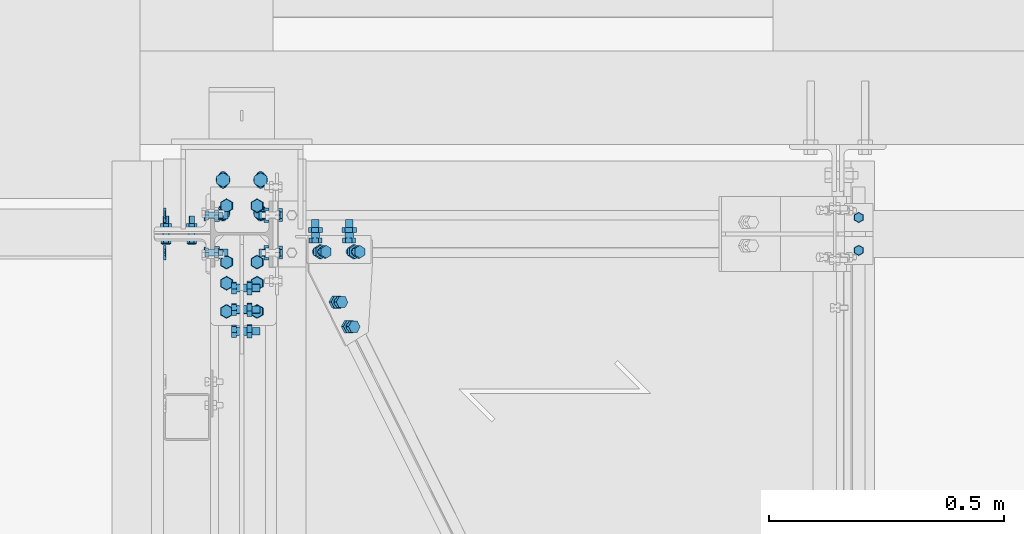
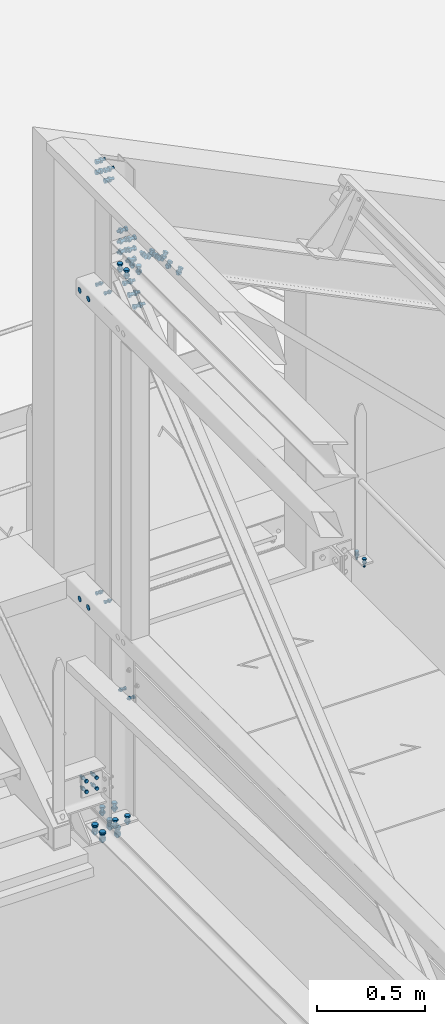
# One storey, part 195 of 362: 16 mechanical fasteners.
"""IFC2X3 building model written with IfcOpenShell, lengths in millimetres."""

from ifc_helpers import new_model, si_unit, frame, frame_2d, origin_with_axes, origin_2d_with_axis, place, context, subcontext, project, spatial, polyline, circle_curve, parameter, trimmed, segment, composite_curve, circle, outline, extrude, source, transform, mapped, material, type_object, element, save


model = new_model("IFC2X3")

# Units and contexts
model_context = context("Model", 3, precision=1e-05, world=origin_with_axes())
body_context = subcontext(model_context, "Body", "Model", "MODEL_VIEW")
ifc_project = project(units=[si_unit("LENGTHUNIT", "METRE", prefix="MILLI"), si_unit("AREAUNIT", "SQUARE_METRE"), si_unit("VOLUMEUNIT", "CUBIC_METRE"), si_unit("MASSUNIT", "GRAM", prefix="KILO"), si_unit("TIMEUNIT", "SECOND"), si_unit("PLANEANGLEUNIT", "RADIAN"), si_unit("SOLIDANGLEUNIT", "STERADIAN"), si_unit("THERMODYNAMICTEMPERATUREUNIT", "DEGREE_CELSIUS"), si_unit("LUMINOUSINTENSITYUNIT", "LUMEN")], contexts=[model_context])

# Site, building, storey
site_placement = place(None, origin_with_axes())
site = spatial("IfcSite", under=ifc_project, at=site_placement, Name="Undefined", CompositionType="ELEMENT")
building_placement = place(site_placement, origin_with_axes())
building = spatial("IfcBuilding", under=site, at=building_placement, Name="Undefined", CompositionType="ELEMENT")
storey_placement = place(building_placement, origin_with_axes())
storey = spatial("IfcBuildingStorey", under=building, at=storey_placement, Name="Undefined", CompositionType="ELEMENT", Elevation=0.0)

# Mechanical fasteners
ifc_material_1 = material(Name="6.8")
mechanical_fastener_type = type_object("IfcMechanicalFastenerType", Name="Bolt assembly")
shared_shape_1 = source(origin_with_axes(), body_context, "Body", "SweptSolid", [
    extrude(circle(Radius=15.0, at=origin_2d_with_axis()), frame((0.0, 0.0, 0.0), z_axis=(0.0, 1.0, 0.0), x_axis=(1.0, 0.0, 0.0)), (0.0, 0.0, 1.0), 4.1),
])
mechanical_fastener_1_placement = place(storey_placement, frame((34113.4999999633, 15200.0, 10245.0), z_axis=(0.0, 1.0, 0.0), x_axis=(0.0, 0.0, 1.0)))
element("IfcMechanicalFastener", 1, at=mechanical_fastener_1_placement, inside=storey, type_object=mechanical_fastener_type, material=ifc_material_1, Name="Bolt assembly", NominalDiameter=30.0, NominalLength=4.0, context=body_context, shape_type="MappedRepresentation", body=[
    mapped(shared_shape_1, transform((0.0, 0.0, 40.0))),
    mapped(shared_shape_1, transform((0.0, 0.0, -40.0))),
])
ifc_material_2 = material(Name="#_SB-8.8-ZINGUE")
shared_shape_2 = source(origin_with_axes(), body_context, "Body", "SweptSolid", [
    extrude(circle(Radius=9.0, at=origin_2d_with_axis()), frame((0.0, 0.1, 0.0), z_axis=(0.0, 1.0, 0.0), x_axis=(1.0, 0.0, 0.0)), (0.0, 0.0, 1.0), 6.0),
    extrude(circle(Radius=9.0, at=origin_2d_with_axis()), frame((0.0, 5.90002706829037, 0.0), z_axis=(0.0, 1.0, 0.0), x_axis=(1.0, 0.0, 0.0)), (0.0, 0.0, 1.0), 6.1),
    extrude(outline(polyline([(13.85640646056, 0.0), (6.92820323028, 12.0000000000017), (-6.92820323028, 12.0000000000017), (-13.85640646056, 0.0), (-6.92820323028, -12.0000000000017), (6.92820323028, -12.0000000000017), (13.85640646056, 0.0)])), frame((0.0, -10.5600019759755, 0.0), z_axis=(0.0, 1.0, 0.0), x_axis=(1.0, 0.0, 0.0)), (0.0, 0.0, 1.0), 10.56),
    extrude(circle(Radius=8.0, at=origin_2d_with_axis()), frame((0.0, 0.0, 0.0), z_axis=(0.0, 1.0, 0.0), x_axis=(1.0, 0.0, 0.0)), (0.0, 0.0, 1.0), 40.0),
    extrude(outline(polyline([(15.3344231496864, 0.0), (7.6672115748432, 13.2800000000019), (-7.6672115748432, 13.2800000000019), (-15.3344231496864, 0.0), (-7.6672115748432, -13.2800000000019), (7.6672115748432, -13.2800000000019), (15.3344231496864, 0.0)])), frame((0.0, 12.0000270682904, 0.0), z_axis=(0.0, 1.0, 0.0), x_axis=(1.0, 0.0, 0.0)), (0.0, 0.0, 1.0), 10.56),
])
mechanical_fastener_2_placement = place(storey_placement, frame((34490.8928985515, 15162.0004298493, 10375.2944476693), z_axis=(-0.897398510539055, -1.29999898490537e-08, 0.441220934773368), x_axis=(0.0, 1.0, 0.0)))
element("IfcMechanicalFastener", 2, at=mechanical_fastener_2_placement, inside=storey, type_object=mechanical_fastener_type, material=ifc_material_2, Name="Bolt assembly", NominalDiameter=16.0, NominalLength=40.0, context=body_context, shape_type="MappedRepresentation", body=[
    mapped(shared_shape_2, transform((0.0, 0.0, 40.0))),
    mapped(shared_shape_2, transform((0.0, 0.0, -40.0))),
])
ifc_material_3 = material(Name="8.8-SB-ZINGUE")
shared_shape_3 = source(origin_with_axes(), body_context, "Body", "SweptSolid", [
    extrude(circle(Radius=9.0, at=origin_2d_with_axis()), frame((0.0, -10.9000000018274, 0.0), z_axis=(0.0, 1.0, 0.0), x_axis=(1.0, 0.0, 0.0)), (0.0, 0.0, 1.0), 6.0),
    extrude(circle(Radius=9.0, at=origin_2d_with_axis()), frame((0.0, 4.9000000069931, 0.0), z_axis=(0.0, 1.0, 0.0), x_axis=(1.0, 0.0, 0.0)), (0.0, 0.0, 1.0), 6.1),
    extrude(circle(Radius=9.0, at=origin_2d_with_axis()), frame((0.0, -3.99999923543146, 0.0), z_axis=(0.0, 1.0, 0.0), x_axis=(1.0, 0.0, 0.0)), (0.0, 0.0, 1.0), 8.0),
    extrude(outline(polyline([(13.85640646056, 0.0), (6.92820323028, 12.0000000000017), (-6.92820323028, 12.0000000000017), (-13.85640646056, 0.0), (-6.92820323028, -12.0000000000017), (6.92820323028, -12.0000000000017), (13.85640646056, 0.0)])), frame((0.0, -21.5600000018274, 0.0), z_axis=(0.0, 1.0, 0.0), x_axis=(1.0, 0.0, 0.0)), (0.0, 0.0, 1.0), 10.56),
    extrude(circle(Radius=8.0, at=origin_2d_with_axis()), frame((0.0, -11.0000000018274, 0.0), z_axis=(0.0, 1.0, 0.0), x_axis=(1.0, 0.0, 0.0)), (0.0, 0.0, 1.0), 50.0),
    extrude(outline(polyline([(15.3344231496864, 0.0), (7.6672115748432, 13.2800000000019), (-7.6672115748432, 13.2800000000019), (-15.3344231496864, 0.0), (-7.6672115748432, -13.2800000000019), (7.6672115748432, -13.2800000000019), (15.3344231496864, 0.0)])), frame((0.0, 11.0000000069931, 0.0), z_axis=(0.0, 1.0, 0.0), x_axis=(1.0, 0.0, 0.0)), (0.0, 0.0, 1.0), 10.56),
])
mechanical_fastener_3_placement = place(storey_placement, frame((34280.0, 15084.8612400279, 10326.8591349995), z_axis=(0.0, -0.640939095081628, 0.767591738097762), x_axis=(0.0, -0.767591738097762, -0.640939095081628)))
element("IfcMechanicalFastener", 3, at=mechanical_fastener_3_placement, inside=storey, type_object=mechanical_fastener_type, material=ifc_material_3, Name="Bolt assembly", NominalDiameter=16.0, NominalLength=50.0, context=body_context, shape_type="MappedRepresentation", body=[
    mapped(shared_shape_3, transform((0.0, 0.0, 0.0))),
    mapped(shared_shape_3, transform((60.0, 0.0, 0.0))),
    mapped(shared_shape_3, transform((120.0, 0.0, 0.0))),
])
shared_shape_4 = source(origin_with_axes(), body_context, "Body", "SweptSolid", [
    extrude(circle(Radius=7.0, at=origin_2d_with_axis()), frame((0.0, -10.0000010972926, 0.0), z_axis=(0.0, 1.0, 0.0), x_axis=(1.0, 0.0, 0.0)), (0.0, 0.0, 1.0), 10.1),
    extrude(outline(polyline([(10.39230484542, 0.0), (5.19615242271, 9.00000000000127), (-5.19615242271, 9.00000000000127), (-10.39230484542, 0.0), (-5.19615242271, -9.00000000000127), (5.19615242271, -9.00000000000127), (10.39230484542, 0.0)])), frame((0.0, -17.92, 0.0), z_axis=(0.0, 1.0, 0.0), x_axis=(1.0, 0.0, 0.0)), (0.0, 0.0, 1.0), 7.92),
    extrude(circle(Radius=6.0, at=origin_2d_with_axis()), frame((0.0, -10.0000010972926, 0.0), z_axis=(0.0, 1.0, 0.0), x_axis=(1.0, 0.0, 0.0)), (0.0, 0.0, 1.0), 40.0),
    extrude(outline(polyline([(11.5008173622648, 0.0), (5.7504086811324, 9.96000000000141), (-5.7504086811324, 9.96000000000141), (-11.5008173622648, 0.0), (-5.7504086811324, -9.96000000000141), (5.7504086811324, -9.96000000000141), (11.5008173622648, 0.0)])), frame((0.0, 0.0, 0.0), z_axis=(0.0, 1.0, 0.0), x_axis=(1.0, 0.0, 0.0)), (0.0, 0.0, 1.0), 7.92),
])
mechanical_fastener_4_placement = place(storey_placement, frame((35593.9917223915, 15165.003431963, 8239.99999649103), z_axis=(-1.0, 0.0, 0.0), x_axis=(0.0, 1.0, 0.0)))
element("IfcMechanicalFastener", 4, at=mechanical_fastener_4_placement, inside=storey, type_object=mechanical_fastener_type, material=ifc_material_3, Name="Bolt assembly", NominalDiameter=12.0, NominalLength=40.0, context=body_context, shape_type="MappedRepresentation", body=[
    mapped(shared_shape_4, transform((0.0, 0.0, 0.0))),
    mapped(shared_shape_4, transform((70.0, -2.91038304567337e-11, 2.18278728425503e-10))),
])
shared_shape_5 = source(origin_with_axes(), body_context, "Body", "SweptSolid", [
    extrude(circle(Radius=7.0, at=origin_2d_with_axis()), frame((0.0, -0.0999426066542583, 0.0), z_axis=(0.0, 1.0, 0.0), x_axis=(1.0, 0.0, 0.0)), (0.0, 0.0, 1.0), 8.6),
    extrude(circle(Radius=7.0, at=origin_2d_with_axis()), frame((0.0, -6.9, 0.0), z_axis=(0.0, 1.0, 0.0), x_axis=(1.0, 0.0, 0.0)), (0.0, 0.0, 1.0), 7.0),
    extrude(outline(polyline([(10.39230484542, 0.0), (5.19615242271, 9.00000000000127), (-5.19615242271, 9.00000000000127), (-10.39230484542, 0.0), (-5.19615242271, -9.00000000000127), (5.19615242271, -9.00000000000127), (10.39230484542, 0.0)])), frame((0.0, -14.92, 0.0), z_axis=(0.0, 1.0, 0.0), x_axis=(1.0, 0.0, 0.0)), (0.0, 0.0, 1.0), 7.92),
    extrude(circle(Radius=6.0, at=origin_2d_with_axis()), frame((0.0, -7.0, 0.0), z_axis=(0.0, 1.0, 0.0), x_axis=(1.0, 0.0, 0.0)), (0.0, 0.0, 1.0), 30.0),
    extrude(outline(polyline([(11.5008173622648, 0.0), (5.7504086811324, 9.96000000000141), (-5.7504086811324, 9.96000000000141), (-11.5008173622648, 0.0), (-5.7504086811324, -9.96000000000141), (5.7504086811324, -9.96000000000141), (11.5008173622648, 0.0)])), frame((0.0, 8.50005763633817, 0.0), z_axis=(0.0, 1.0, 0.0), x_axis=(1.0, 0.0, 0.0)), (0.0, 0.0, 1.0), 7.92),
])
mechanical_fastener_5_placement = place(storey_placement, frame((34346.5000576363, 15200.0, 7909.99999999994), z_axis=(0.0, -1.0, 0.0), x_axis=(0.0, 0.0, 1.0)))
element("IfcMechanicalFastener", 5, at=mechanical_fastener_5_placement, inside=storey, type_object=mechanical_fastener_type, material=ifc_material_3, Name="Bolt assembly", NominalDiameter=12.0, NominalLength=30.0, context=body_context, shape_type="MappedRepresentation", body=[
    mapped(shared_shape_5, transform((0.0, 0.0, -40.0))),
    mapped(shared_shape_5, transform((0.0, 0.0, 40.0))),
])
shared_shape_6 = source(origin_with_axes(), body_context, "Body", "SweptSolid", [
    extrude(circle(Radius=9.0, at=origin_2d_with_axis()), frame((0.0, -4.90000000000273, 0.0), z_axis=(0.0, 1.0, 0.0), x_axis=(1.0, 0.0, 0.0)), (0.0, 0.0, 1.0), 5.0),
    extrude(circle(Radius=9.0, at=origin_2d_with_axis()), frame((0.0, -0.100011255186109, 0.0), z_axis=(0.0, 1.0, 0.0), x_axis=(1.0, 0.0, 0.0)), (0.0, 0.0, 1.0), 6.1),
    extrude(outline(polyline([(13.85640646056, 0.0), (6.92820323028, 12.0000000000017), (-6.92820323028, 12.0000000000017), (-13.85640646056, 0.0), (-6.92820323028, -12.0000000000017), (6.92820323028, -12.0000000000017), (13.85640646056, 0.0)])), frame((0.0, -15.5600404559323, 0.0), z_axis=(0.0, 1.0, 0.0), x_axis=(1.0, 0.0, 0.0)), (0.0, 0.0, 1.0), 10.56),
    extrude(circle(Radius=8.0, at=origin_2d_with_axis()), frame((0.0, -5.00000000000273, 0.0), z_axis=(0.0, 1.0, 0.0), x_axis=(1.0, 0.0, 0.0)), (0.0, 0.0, 1.0), 30.0),
    extrude(outline(polyline([(15.3344231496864, 0.0), (7.6672115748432, 13.2800000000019), (-7.6672115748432, 13.2800000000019), (-15.3344231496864, 0.0), (-7.6672115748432, -13.2800000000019), (7.6672115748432, -13.2800000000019), (15.3344231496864, 0.0)])), frame((0.0, 6.0, 0.0), z_axis=(0.0, 1.0, 0.0), x_axis=(1.0, 0.0, 0.0)), (0.0, 0.0, 1.0), 10.56),
])
mechanical_fastener_6_placement = place(storey_placement, frame((34486.7876024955, 15054.9111176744, 10377.3128834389), z_axis=(0.784869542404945, 0.484835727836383, -0.385893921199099), x_axis=(0.435090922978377, -0.874605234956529, -0.213919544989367)))
element("IfcMechanicalFastener", 6, at=mechanical_fastener_6_placement, inside=storey, type_object=mechanical_fastener_type, material=ifc_material_2, Name="Bolt assembly", NominalDiameter=16.0, NominalLength=30.0, context=body_context, shape_type="MappedRepresentation", body=[
    mapped(shared_shape_6, transform((0.0, 0.0, 0.0))),
    mapped(shared_shape_6, transform((60.0, 0.0, 0.0))),
])
shared_shape_7 = source(origin_with_axes(), body_context, "Body", "SweptSolid", [
    extrude(circle(Radius=9.0, at=origin_2d_with_axis()), frame((0.0, -2.90032951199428, 0.0), z_axis=(0.0, 1.0, 0.0), x_axis=(1.0, 0.0, 0.0)), (0.0, 0.0, 1.0), 5.7),
    extrude(circle(Radius=9.0, at=origin_2d_with_axis()), frame((0.0, -8.89990143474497, 0.0), z_axis=(0.0, 1.0, 0.0), x_axis=(1.0, 0.0, 0.0)), (0.0, 0.0, 1.0), 6.0),
    extrude(outline(polyline([(13.85640646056, 0.0), (6.92820323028, 12.0000000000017), (-6.92820323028, 12.0000000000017), (-13.85640646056, 0.0), (-6.92820323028, -12.0000000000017), (6.92820323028, -12.0000000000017), (13.85640646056, 0.0)])), frame((0.0, -19.559901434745, 0.0), z_axis=(0.0, 1.0, 0.0), x_axis=(1.0, 0.0, 0.0)), (0.0, 0.0, 1.0), 10.56),
    extrude(circle(Radius=8.0, at=origin_2d_with_axis()), frame((0.0, -8.99990143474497, 0.0), z_axis=(0.0, 1.0, 0.0), x_axis=(1.0, 0.0, 0.0)), (0.0, 0.0, 1.0), 40.0),
    extrude(outline(polyline([(15.3344231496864, 0.0), (7.6672115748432, 13.2800000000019), (-7.6672115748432, 13.2800000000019), (-15.3344231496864, 0.0), (-7.6672115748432, -13.2800000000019), (7.6672115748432, -13.2800000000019), (15.3344231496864, 0.0)])), frame((0.0, 2.79967039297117, 0.0), z_axis=(0.0, 1.0, 0.0), x_axis=(1.0, 0.0, 0.0)), (0.0, 0.0, 1.0), 10.56),
])
mechanical_fastener_7_placement = place(storey_placement, frame((34472.8027583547, 15200.0003300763, 10338.5011114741), z_axis=(-0.897398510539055, -1.29999898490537e-08, 0.441220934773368), x_axis=(0.44122107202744, 0.0, 0.89739844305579)))
element("IfcMechanicalFastener", 7, at=mechanical_fastener_7_placement, inside=storey, type_object=mechanical_fastener_type, material=ifc_material_2, Name="Bolt assembly", NominalDiameter=16.0, NominalLength=40.0, context=body_context, shape_type="MappedRepresentation", body=[
    mapped(shared_shape_7, transform((0.0, 0.0, 40.0))),
    mapped(shared_shape_7, transform((0.0, 0.0, -40.0))),
])
shared_shape_8 = source(origin_with_axes(), body_context, "Body", "SweptSolid", [
    extrude(circle(Radius=9.0, at=origin_2d_with_axis()), frame((0.0, -0.091713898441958, 0.0), z_axis=(0.0, 1.0, 0.0), x_axis=(1.0, 0.0, 0.0)), (0.0, 0.0, 1.0), 8.6),
    extrude(circle(Radius=9.0, at=origin_2d_with_axis()), frame((0.0, -9.89171439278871, 0.0), z_axis=(0.0, 1.0, 0.0), x_axis=(1.0, 0.0, 0.0)), (0.0, 0.0, 1.0), 10.0),
    extrude(outline(polyline([(13.85640646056, 0.0), (6.92820323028, 12.0000000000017), (-6.92820323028, 12.0000000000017), (-13.85640646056, 0.0), (-6.92820323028, -12.0000000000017), (6.92820323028, -12.0000000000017), (13.85640646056, 0.0)])), frame((0.0, -20.5517143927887, 0.0), z_axis=(0.0, 1.0, 0.0), x_axis=(1.0, 0.0, 0.0)), (0.0, 0.0, 1.0), 10.56),
    extrude(circle(Radius=8.0, at=origin_2d_with_axis()), frame((0.0, -9.99171439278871, 0.0), z_axis=(0.0, 1.0, 0.0), x_axis=(1.0, 0.0, 0.0)), (0.0, 0.0, 1.0), 40.0),
    extrude(outline(polyline([(15.3344231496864, 0.0), (7.6672115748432, 13.2800000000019), (-7.6672115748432, 13.2800000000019), (-15.3344231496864, 0.0), (-7.6672115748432, -13.2800000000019), (7.6672115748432, -13.2800000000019), (15.3344231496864, 0.0)])), frame((0.0, 8.50828610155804, 0.0), z_axis=(0.0, 1.0, 0.0), x_axis=(1.0, 0.0, 0.0)), (0.0, 0.0, 1.0), 10.56),
])
mechanical_fastener_8_placement = place(storey_placement, frame((34346.5082856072, 15160.0, 10446.3709529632), z_axis=(0.0, 0.0, 1.0), x_axis=(0.0, 1.0, 0.0)))
element("IfcMechanicalFastener", 8, at=mechanical_fastener_8_placement, inside=storey, type_object=mechanical_fastener_type, material=ifc_material_3, Name="Bolt assembly", NominalDiameter=16.0, NominalLength=40.0, context=body_context, shape_type="MappedRepresentation", body=[
    mapped(shared_shape_8, transform((0.0, 0.0, -60.0))),
    mapped(shared_shape_8, transform((80.0, 0.0, -60.0))),
    mapped(shared_shape_8, transform((0.0, 0.0, 0.0))),
    mapped(shared_shape_8, transform((80.0, 0.0, 0.0))),
    mapped(shared_shape_8, transform((0.0, 0.0, 60.0))),
    mapped(shared_shape_8, transform((80.0, 0.0, 60.0))),
])
shared_shape_9 = source(origin_with_axes(), body_context, "Body", "SweptSolid", [
    extrude(circle(Radius=15.0, at=origin_2d_with_axis()), frame((0.0, -0.000130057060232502, 0.0), z_axis=(0.0, 1.0, 0.0), x_axis=(1.0, 0.0, 0.0)), (0.0, 0.0, 1.0), 4.1),
])
mechanical_fastener_9_placement = place(storey_placement, frame((34113.5001162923, 15200.0, 8500.0), z_axis=(0.0, -1.0, 0.0), x_axis=(0.0, 0.0, -1.0)))
element("IfcMechanicalFastener", 9, at=mechanical_fastener_9_placement, inside=storey, type_object=mechanical_fastener_type, material=ifc_material_1, Name="Bolt assembly", NominalDiameter=30.0, NominalLength=4.0, context=body_context, shape_type="MappedRepresentation", body=[
    mapped(shared_shape_9, transform((0.0, 0.0, -40.0))),
    mapped(shared_shape_9, transform((0.0, 0.0, 40.0))),
])
shared_shape_10 = source(origin_with_axes(), body_context, "Body", "SweptSolid", [
    extrude(circle(Radius=7.0, at=origin_2d_with_axis()), frame((0.0, -3.90012822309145, 0.0), z_axis=(0.0, 1.0, 0.0), x_axis=(1.0, 0.0, 0.0)), (0.0, 0.0, 1.0), 4.0),
    extrude(circle(Radius=7.0, at=origin_2d_with_axis()), frame((0.0, -0.10007666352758, 0.0), z_axis=(0.0, 1.0, 0.0), x_axis=(1.0, 0.0, 0.0)), (0.0, 0.0, 1.0), 8.6),
    extrude(outline(polyline([(10.39230484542, 0.0), (5.19615242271, 9.00000000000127), (-5.19615242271, 9.00000000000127), (-10.39230484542, 0.0), (-5.19615242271, -9.00000000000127), (5.19615242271, -9.00000000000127), (10.39230484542, 0.0)])), frame((0.0, -11.9201282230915, 0.0), z_axis=(0.0, 1.0, 0.0), x_axis=(1.0, 0.0, 0.0)), (0.0, 0.0, 1.0), 7.92),
    extrude(circle(Radius=6.0, at=origin_2d_with_axis()), frame((0.0, -4.00012822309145, 0.0), z_axis=(0.0, 1.0, 0.0), x_axis=(1.0, 0.0, 0.0)), (0.0, 0.0, 1.0), 30.0),
    extrude(outline(polyline([(11.5008173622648, 0.0), (5.7504086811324, 9.96000000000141), (-5.7504086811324, 9.96000000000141), (-11.5008173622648, 0.0), (-5.7504086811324, -9.96000000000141), (5.7504086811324, -9.96000000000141), (11.5008173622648, 0.0)])), frame((0.0, 8.49988372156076, 0.0), z_axis=(0.0, 1.0, 0.0), x_axis=(1.0, 0.0, 0.0)), (0.0, 0.0, 1.0), 7.92),
])
mechanical_fastener_10_placement = place(storey_placement, frame((34213.5001162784, 15200.0, 8500.0), z_axis=(0.0, -1.0, 0.0), x_axis=(0.0, 0.0, -1.0)))
element("IfcMechanicalFastener", 10, at=mechanical_fastener_10_placement, inside=storey, type_object=mechanical_fastener_type, material=ifc_material_3, Name="Bolt assembly", NominalDiameter=12.0, NominalLength=30.0, context=body_context, shape_type="MappedRepresentation", body=[
    mapped(shared_shape_10, transform((0.0, 0.0, -40.0))),
    mapped(shared_shape_10, transform((0.0, 0.0, 40.0))),
])
shared_shape_11 = source(origin_with_axes(), body_context, "Body", "SweptSolid", [
    extrude(circle(Radius=7.0, at=origin_2d_with_axis()), frame((0.0, -3.89999843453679, 0.0), z_axis=(0.0, 1.0, 0.0), x_axis=(1.0, 0.0, 0.0)), (0.0, 0.0, 1.0), 4.0),
    extrude(circle(Radius=7.0, at=origin_2d_with_axis()), frame((0.0, -0.100011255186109, 0.0), z_axis=(0.0, 1.0, 0.0), x_axis=(1.0, 0.0, 0.0)), (0.0, 0.0, 1.0), 8.6),
    extrude(outline(polyline([(10.39230484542, 0.0), (5.19615242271, 9.00000000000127), (-5.19615242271, 9.00000000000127), (-10.39230484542, 0.0), (-5.19615242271, -9.00000000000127), (5.19615242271, -9.00000000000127), (10.39230484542, 0.0)])), frame((0.0, -11.9199984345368, 0.0), z_axis=(0.0, 1.0, 0.0), x_axis=(1.0, 0.0, 0.0)), (0.0, 0.0, 1.0), 7.92),
    extrude(circle(Radius=6.0, at=origin_2d_with_axis()), frame((0.0, -3.99999923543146, 0.0), z_axis=(0.0, 1.0, 0.0), x_axis=(1.0, 0.0, 0.0)), (0.0, 0.0, 1.0), 30.0),
    extrude(outline(polyline([(11.5008173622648, 0.0), (5.7504086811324, 9.96000000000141), (-5.7504086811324, 9.96000000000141), (-11.5008173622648, 0.0), (-5.7504086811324, -9.96000000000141), (5.7504086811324, -9.96000000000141), (11.5008173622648, 0.0)])), frame((0.0, 8.49999994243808, 0.0), z_axis=(0.0, 1.0, 0.0), x_axis=(1.0, 0.0, 0.0)), (0.0, 0.0, 1.0), 7.92),
])
mechanical_fastener_11_placement = place(storey_placement, frame((34213.4999999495, 15200.0, 10245.0), z_axis=(0.0, 1.0, 0.0), x_axis=(0.0, 0.0, 1.0)))
element("IfcMechanicalFastener", 11, at=mechanical_fastener_11_placement, inside=storey, type_object=mechanical_fastener_type, material=ifc_material_3, Name="Bolt assembly", NominalDiameter=12.0, NominalLength=30.0, context=body_context, shape_type="MappedRepresentation", body=[
    mapped(shared_shape_11, transform((0.0, 0.0, -40.0))),
    mapped(shared_shape_11, transform((0.0, 0.0, 40.0))),
])
shared_shape_12 = source(origin_with_axes(), body_context, "Body", "SweptSolid", [
    extrude(circle(Radius=9.0, at=origin_2d_with_axis()), frame((0.0, -0.100011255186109, 0.0), z_axis=(0.0, 1.0, 0.0), x_axis=(1.0, 0.0, 0.0)), (0.0, 0.0, 1.0), 8.6),
    extrude(circle(Radius=9.0, at=origin_2d_with_axis()), frame((0.0, -2.9, 0.0), z_axis=(0.0, 1.0, 0.0), x_axis=(1.0, 0.0, 0.0)), (0.0, 0.0, 1.0), 3.0),
    extrude(outline(polyline([(13.85640646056, 0.0), (6.92820323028, 12.0000000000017), (-6.92820323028, 12.0000000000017), (-13.85640646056, 0.0), (-6.92820323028, -12.0000000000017), (6.92820323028, -12.0000000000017), (13.85640646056, 0.0)])), frame((0.0, -13.56, 0.0), z_axis=(0.0, 1.0, 0.0), x_axis=(1.0, 0.0, 0.0)), (0.0, 0.0, 1.0), 10.56),
    extrude(circle(Radius=8.0, at=origin_2d_with_axis()), frame((0.0, -2.99999932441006, 0.0), z_axis=(0.0, 1.0, 0.0), x_axis=(1.0, 0.0, 0.0)), (0.0, 0.0, 1.0), 40.0),
    extrude(outline(polyline([(15.3344231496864, 0.0), (7.6672115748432, 13.2800000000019), (-7.6672115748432, 13.2800000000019), (-15.3344231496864, 0.0), (-7.6672115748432, -13.2800000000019), (7.6672115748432, -13.2800000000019), (15.3344231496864, 0.0)])), frame((0.0, 8.49999994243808, 0.0), z_axis=(0.0, 1.0, 0.0), x_axis=(1.0, 0.0, 0.0)), (0.0, 0.0, 1.0), 10.56),
])
mechanical_fastener_12_placement = place(storey_placement, frame((34213.49999895, 15200.0, 10880.8421014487), z_axis=(0.0, 1.0, 0.0), x_axis=(0.0, 0.0, 1.0)))
element("IfcMechanicalFastener", 12, at=mechanical_fastener_12_placement, inside=storey, type_object=mechanical_fastener_type, material=ifc_material_3, Name="Bolt assembly", NominalDiameter=16.0, NominalLength=40.0, context=body_context, shape_type="MappedRepresentation", body=[
    mapped(shared_shape_12, transform((0.0, 0.0, -40.0))),
    mapped(shared_shape_12, transform((60.0, 0.0, -40.0))),
    mapped(shared_shape_12, transform((0.0, 0.0, 40.0))),
    mapped(shared_shape_12, transform((60.0, 0.0, 40.0))),
])
shared_shape_13 = source(origin_with_axes(), body_context, "Body", "SweptSolid", [
    extrude(circle(Radius=7.0, at=origin_2d_with_axis()), frame((0.0, -2.80016829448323, 0.0), z_axis=(0.0, 1.0, 0.0), x_axis=(1.0, 0.0, 0.0)), (0.0, 0.0, 1.0), 5.6),
    extrude(circle(Radius=7.0, at=origin_2d_with_axis()), frame((0.0, -12.9001594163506, 0.0), z_axis=(0.0, 1.0, 0.0), x_axis=(1.0, 0.0, 0.0)), (0.0, 0.0, 1.0), 10.0),
    extrude(circle(Radius=7.0, at=origin_2d_with_axis()), frame((0.0, 2.90070287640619, 0.0), z_axis=(0.0, 1.0, 0.0), x_axis=(1.0, 0.0, 0.0)), (0.0, 0.0, 1.0), 10.1),
    extrude(outline(polyline([(10.39230484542, 0.0), (5.19615242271, 9.00000000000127), (-5.19615242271, 9.00000000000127), (-10.39230484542, 0.0), (-5.19615242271, -9.00000000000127), (5.19615242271, -9.00000000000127), (10.39230484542, 0.0)])), frame((0.0, -20.9201594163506, 0.0), z_axis=(0.0, 1.0, 0.0), x_axis=(1.0, 0.0, 0.0)), (0.0, 0.0, 1.0), 7.92),
    extrude(circle(Radius=6.0, at=origin_2d_with_axis()), frame((0.0, -13.0001594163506, 0.0), z_axis=(0.0, 1.0, 0.0), x_axis=(1.0, 0.0, 0.0)), (0.0, 0.0, 1.0), 50.0),
    extrude(outline(polyline([(11.5008173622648, 0.0), (5.7504086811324, 9.96000000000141), (-5.7504086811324, 9.96000000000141), (-11.5008173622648, 0.0), (-5.7504086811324, -9.96000000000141), (5.7504086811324, -9.96000000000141), (11.5008173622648, 0.0)])), frame((0.0, 13.0007028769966, 0.0), z_axis=(0.0, 1.0, 0.0), x_axis=(1.0, 0.0, 0.0)), (0.0, 0.0, 1.0), 7.92),
])
mechanical_fastener_13_placement = place(storey_placement, frame((34118.4999999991, 15200.0000913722, 7472.26782933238), z_axis=(7.58071938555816e-11, 0.0314107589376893, 0.999506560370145), x_axis=(0.999999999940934, -1.08559999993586e-05, 5.27999997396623e-07)))
element("IfcMechanicalFastener", 13, at=mechanical_fastener_13_placement, inside=storey, type_object=mechanical_fastener_type, material=ifc_material_3, Name="Bolt assembly", NominalDiameter=12.0, NominalLength=50.0, context=body_context, shape_type="MappedRepresentation", body=[
    mapped(shared_shape_13, transform((0.0, 0.0, -30.0))),
    mapped(shared_shape_13, transform((55.0000000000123, 3.45607986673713e-11, -30.0000000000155))),
    mapped(shared_shape_13, transform((0.0, 0.0, 30.0))),
    mapped(shared_shape_13, transform((54.9999999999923, 3.45607986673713e-11, 29.9999999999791))),
])
shared_shape_14 = source(origin_with_axes(), body_context, "Body", "SweptSolid", [
    extrude(circle(Radius=9.0, at=origin_2d_with_axis()), frame((0.0, -0.10007666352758, 0.0), z_axis=(0.0, 1.0, 0.0), x_axis=(1.0, 0.0, 0.0)), (0.0, 0.0, 1.0), 8.6),
    extrude(circle(Radius=9.0, at=origin_2d_with_axis()), frame((0.0, -9.9, 0.0), z_axis=(0.0, 1.0, 0.0), x_axis=(1.0, 0.0, 0.0)), (0.0, 0.0, 1.0), 10.0),
    extrude(outline(polyline([(13.85640646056, 0.0), (6.92820323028, 12.0000000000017), (-6.92820323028, 12.0000000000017), (-13.85640646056, 0.0), (-6.92820323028, -12.0000000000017), (6.92820323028, -12.0000000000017), (13.85640646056, 0.0)])), frame((0.0, -20.5600000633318, 0.0), z_axis=(0.0, 1.0, 0.0), x_axis=(1.0, 0.0, 0.0)), (0.0, 0.0, 1.0), 10.56),
    extrude(circle(Radius=8.0, at=origin_2d_with_axis()), frame((0.0, -10.0000010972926, 0.0), z_axis=(0.0, 1.0, 0.0), x_axis=(1.0, 0.0, 0.0)), (0.0, 0.0, 1.0), 40.0),
    extrude(outline(polyline([(15.3344231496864, 0.0), (7.6672115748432, 13.2800000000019), (-7.6672115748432, 13.2800000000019), (-15.3344231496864, 0.0), (-7.6672115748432, -13.2800000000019), (7.6672115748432, -13.2800000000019), (15.3344231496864, 0.0)])), frame((0.0, 8.49999994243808, 0.0), z_axis=(0.0, 1.0, 0.0), x_axis=(1.0, 0.0, 0.0)), (0.0, 0.0, 1.0), 10.56),
])
mechanical_fastener_14_placement = place(storey_placement, frame((34280.0, 15140.0, 7249.9999684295), z_axis=(-1.0, 0.0, 0.0), x_axis=(0.0, 1.0, 0.0)))
element("IfcMechanicalFastener", 14, at=mechanical_fastener_14_placement, inside=storey, type_object=mechanical_fastener_type, material=ifc_material_3, Name="Bolt assembly", NominalDiameter=16.0, NominalLength=40.0, context=body_context, shape_type="MappedRepresentation", body=[
    mapped(shared_shape_14, transform((0.0, 0.0, -32.5))),
    mapped(shared_shape_14, transform((120.0, 0.0, -32.5))),
    mapped(shared_shape_14, transform((0.0, 0.0, 32.5))),
    mapped(shared_shape_14, transform((120.0, 0.0, 32.5))),
])
shared_shape_15 = source(origin_with_axes(), body_context, "Body", "SweptSolid", [
    extrude(circle(Radius=9.0, at=origin_2d_with_axis()), frame((0.0, -8.40001950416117, 0.0), z_axis=(0.0, 1.0, 0.0), x_axis=(1.0, 0.0, 0.0)), (0.0, 0.0, 1.0), 8.5),
    extrude(circle(Radius=9.0, at=origin_2d_with_axis()), frame((0.0, -0.100011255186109, 0.0), z_axis=(0.0, 1.0, 0.0), x_axis=(1.0, 0.0, 0.0)), (0.0, 0.0, 1.0), 10.1),
    extrude(outline(polyline([(13.85640646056, 0.0), (6.92820323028, 12.0000000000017), (-6.92820323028, 12.0000000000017), (-13.85640646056, 0.0), (-6.92820323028, -12.0000000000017), (6.92820323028, -12.0000000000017), (13.85640646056, 0.0)])), frame((0.0, -19.0599999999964, 0.0), z_axis=(0.0, 1.0, 0.0), x_axis=(1.0, 0.0, 0.0)), (0.0, 0.0, 1.0), 10.56),
    extrude(circle(Radius=8.0, at=origin_2d_with_axis()), frame((0.0, -8.5, 0.0), z_axis=(0.0, 1.0, 0.0), x_axis=(1.0, 0.0, 0.0)), (0.0, 0.0, 1.0), 40.0),
    extrude(outline(polyline([(15.3344231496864, 0.0), (7.6672115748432, 13.2800000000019), (-7.6672115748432, 13.2800000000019), (-15.3344231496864, 0.0), (-7.6672115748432, -13.2800000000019), (7.6672115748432, -13.2800000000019), (15.3344231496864, 0.0)])), frame((0.0, 10.0000000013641, 0.0), z_axis=(0.0, 1.0, 0.0), x_axis=(1.0, 0.0, 0.0)), (0.0, 0.0, 1.0), 10.56),
])
mechanical_fastener_15_placement = place(storey_placement, frame((34280.0000000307, 15094.9969221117, 10423.0), z_axis=(1.0, 0.0, 0.0), x_axis=(0.0, -1.0, 0.0)))
element("IfcMechanicalFastener", 15, at=mechanical_fastener_15_placement, inside=storey, type_object=mechanical_fastener_type, material=ifc_material_3, Name="Bolt assembly", NominalDiameter=16.0, NominalLength=40.0, context=body_context, shape_type="MappedRepresentation", body=[
    mapped(shared_shape_15, transform((0.0, 0.0, 32.5))),
    mapped(shared_shape_15, transform((60.0, 0.0, 32.5))),
    mapped(shared_shape_15, transform((0.0, 0.0, -32.5))),
    mapped(shared_shape_15, transform((60.0, 0.0, -32.5))),
])
ifc_material_4 = material(Name="HR10.9")
shared_shape_16 = source(origin_with_axes(), body_context, "Body", "SweptSolid", [
    extrude(circle(Radius=9.0, at=origin_2d_with_axis()), frame((0.0, -8.40001950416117, 0.0), z_axis=(0.0, 1.0, 0.0), x_axis=(1.0, 0.0, 0.0)), (0.0, 0.0, 1.0), 8.5),
    extrude(outline(composite_curve([segment(polyline([(-9.0, 9.0), (9.0, 9.0)]), True, "CONTINUOUS"), segment(trimmed(circle_curve(frame_2d((9.0, 0.0), x_axis=(0.0, 1.0)), 9.0), [parameter(0.0)], [parameter(3.14159265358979)], False, "PARAMETER"), True, "CONTINUOUS"), segment(polyline([(9.0, -9.0), (-9.0, -9.0)]), True, "CONTINUOUS"), segment(trimmed(circle_curve(frame_2d((-9.0, 0.0), x_axis=(0.0, -1.0)), 9.0), [parameter(0.0)], [parameter(3.14159265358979)], False, "PARAMETER"), True, "DISCONTINUOUS")], self_intersect=False)), frame((0.0, -0.100011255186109, 0.0), z_axis=(0.0, 1.0, 0.0), x_axis=(1.0, 0.0, 0.0)), (0.0, 0.0, 1.0), 10.1),
    extrude(outline(polyline([(15.58845726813, 0.0), (7.794228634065, 13.5000000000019), (-7.794228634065, 13.5000000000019), (-15.58845726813, 0.0), (-7.794228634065, -13.5000000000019), (7.794228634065, -13.5000000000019), (15.58845726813, 0.0)])), frame((0.0, -22.5000001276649, 0.0), z_axis=(0.0, 1.0, 0.0), x_axis=(1.0, 0.0, 0.0)), (0.0, 0.0, 1.0), 10.0),
    extrude(circle(Radius=8.0, at=origin_2d_with_axis()), frame((0.0, -12.4999999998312, 0.0), z_axis=(0.0, 1.0, 0.0), x_axis=(1.0, 0.0, 0.0)), (0.0, 0.0, 1.0), 50.0),
    extrude(circle(Radius=15.0, at=origin_2d_with_axis()), frame((0.0, -12.4999999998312, 0.0), z_axis=(0.0, 1.0, 0.0), x_axis=(1.0, 0.0, 0.0)), (0.0, 0.0, 1.0), 4.0),
    extrude(circle(Radius=15.0, at=origin_2d_with_axis()), frame((0.0, 10.0000000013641, 0.0), z_axis=(0.0, 1.0, 0.0), x_axis=(1.0, 0.0, 0.0)), (0.0, 0.0, 1.0), 4.0),
    extrude(outline(polyline([(15.58845726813, 0.0), (7.794228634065, 13.5000000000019), (-7.794228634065, 13.5000000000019), (-15.58845726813, 0.0), (-7.794228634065, -13.5000000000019), (7.794228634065, -13.5000000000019), (15.58845726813, 0.0)])), frame((0.0, 13.9999928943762, 0.0), z_axis=(0.0, 1.0, 0.0), x_axis=(1.0, 0.0, 0.0)), (0.0, 0.0, 1.0), 15.0),
])
mechanical_fastener_16_placement = place(storey_placement, frame((34279.9999999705, 15245.0000007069, 7116.99999987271), z_axis=(-1.0, 0.0, 0.0), x_axis=(0.0, 1.0, 0.0)))
element("IfcMechanicalFastener", 16, at=mechanical_fastener_16_placement, inside=storey, type_object=mechanical_fastener_type, material=ifc_material_4, Name="Bolt assembly", NominalDiameter=16.0, NominalLength=50.0, context=body_context, shape_type="MappedRepresentation", body=[
    mapped(shared_shape_16, transform((0.0, 0.0, -40.0))),
    mapped(shared_shape_16, transform((69.9999999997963, 3.99268174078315e-10, -40.0000000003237))),
    mapped(shared_shape_16, transform((0.0, 0.0, 40.0))),
    mapped(shared_shape_16, transform((70.0000000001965, 4.12001099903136e-10, 39.999999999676))),
])

save(model, "model.ifc")
